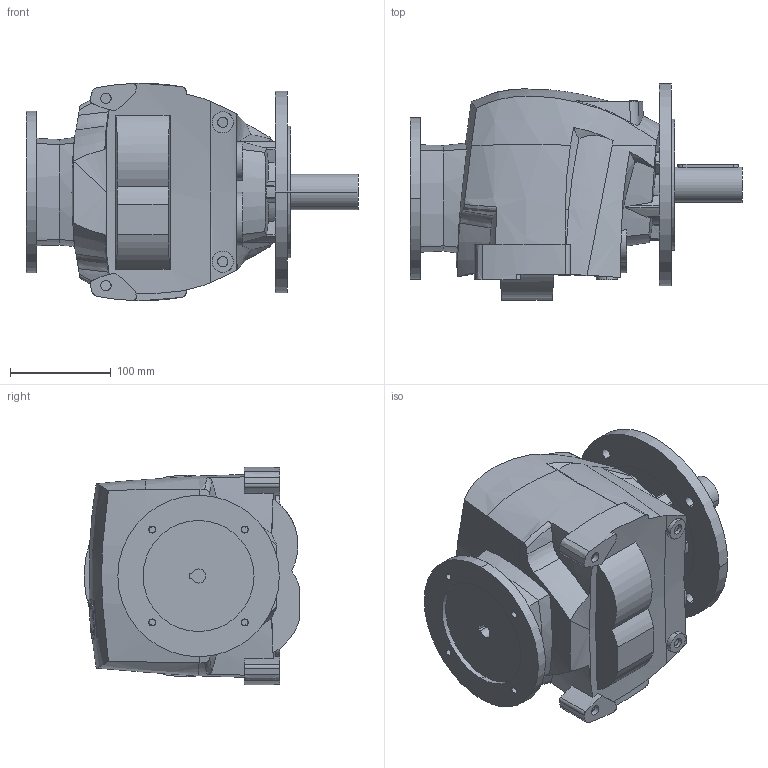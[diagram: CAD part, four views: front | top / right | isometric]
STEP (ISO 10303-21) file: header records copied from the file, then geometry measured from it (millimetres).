
FILE_DESCRIPTION((''),'2;1');
FILE_NAME('R30_200_PAM71_D2','2013-11-22T',('Luca'),(''),'PRO/ENGINEER BY PARAMETRIC TECHNOLOGY CORPORATION, 2008230','PRO/ENGINEER BY PARAMETRIC TECHNOLOGY CORPORATION, 2008230','');
FILE_SCHEMA(('CONFIG_CONTROL_DESIGN'));
Length unit declared in the file: millimetre
Products named in the file (1): R30_200_PAM71_D2
Bounding box: 329 x 214 x 215.22 mm (x, y, z)
Volume: 6601061.7 mm3; surface area: 314534.5 mm2
Topology: 6 solids, 12 shells, 419 faces, 1115 edges, 744 vertices
Faces by surface type: plane 158, cylinder 129, bspline 87, cone 24, extrusion 17, torus 4
Entity records: 17042 total; most frequent: CARTESIAN_POINT 7367, ORIENTED_EDGE 2222, DIRECTION 1613, EDGE_CURVE 1111, VERTEX_POINT 743, AXIS2_PLACEMENT_3D 556, VECTOR 501, LINE 484
